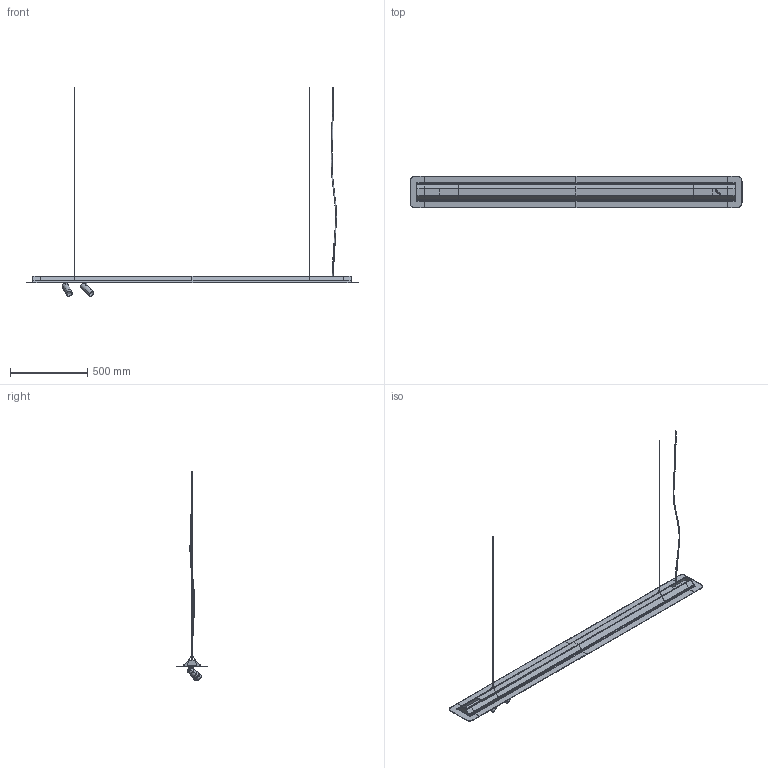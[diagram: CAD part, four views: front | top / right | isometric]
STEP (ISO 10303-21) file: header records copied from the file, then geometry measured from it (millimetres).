
FILE_DESCRIPTION(/* description */ (''),/* implementation_level */ '2;1');
FILE_NAME(/* name */ '164F0S~V',/* time_stamp */ '2026-03-05T15:21:48+01:00',/* author */ (''),/* organization */ (''),/* preprocessor_version */ 'ST-DEVELOPER v16.5',/* originating_system */ '',/* authorisation */ '');
FILE_SCHEMA (('AUTOMOTIVE_DESIGN'));
Products named in the file (1): Document
Bounding box: 2151 x 202.03 x 1354.05 mm (x, y, z)
Volume: 3951318.5 mm3; surface area: 1705217.4 mm2
Topology: 59 solids, 64 shells, 1248 faces, 2949 edges, 1816 vertices
Faces by surface type: bspline 1248
Entity records: 73979 total; most frequent: CARTESIAN_POINT 37507, B_SPLINE_CURVE_WITH_KNOTS 6234, ORIENTED_EDGE 5847, PCURVE 5847, DEFINITIONAL_REPRESENTATION 5847, SURFACE_CURVE 2945, EDGE_CURVE 2945, VERTEX_POINT 1816
